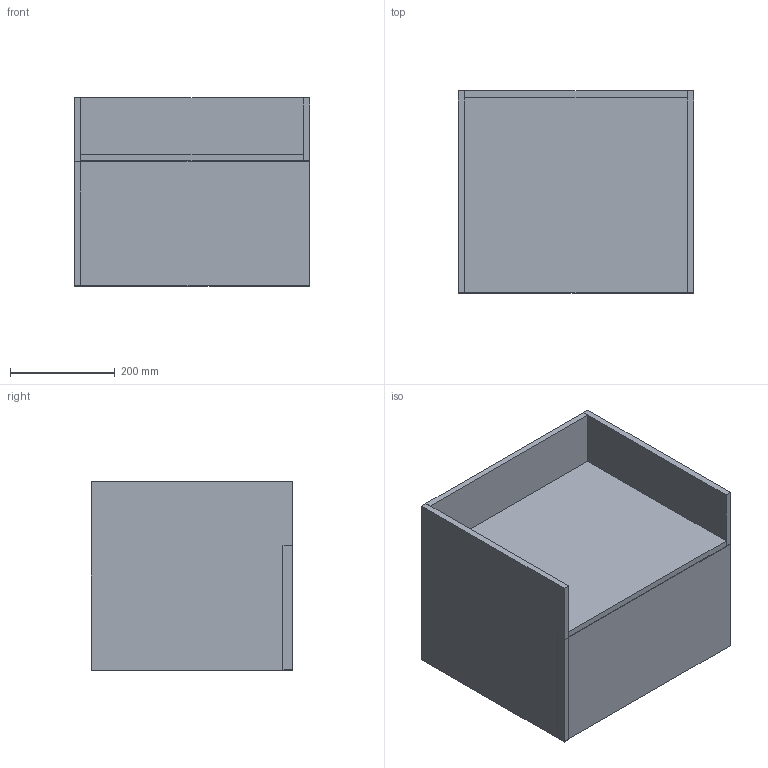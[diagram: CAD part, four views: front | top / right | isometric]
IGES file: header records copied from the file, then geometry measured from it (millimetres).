
Start section: Data from Parasolid IGES Translator 19.0.9, Copyright(c) 2006 Siemens PL M Software. All Rights Reserved.
Global section: file name: noorth-SI-H 36 D 38,8 W 46,2_8883.igs; native system: By Siemens PLM Incorporated; preprocessor: XPlus GENERIC/IGES 19.0.9; author: Noname; organization: Noname; date: 20200601.092418; units: metre
Bounding box: 450.01 x 386 x 360 mm (x, y, z)
Volume: 13339938.2 mm3; surface area: 2131192 mm2
Topology: 9 solids, 9 shells, 54 faces, 108 edges, 72 vertices
Faces by surface type: plane 54
